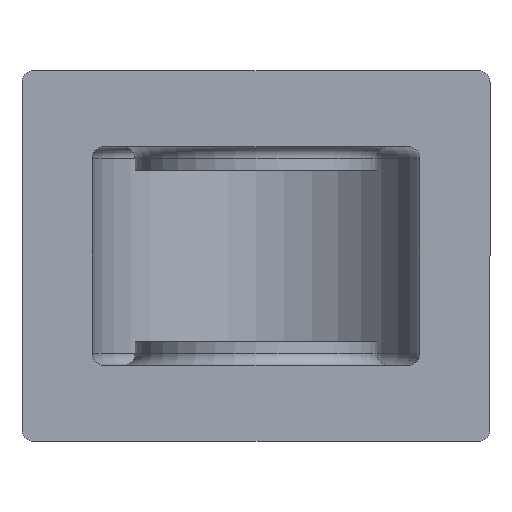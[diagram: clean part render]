
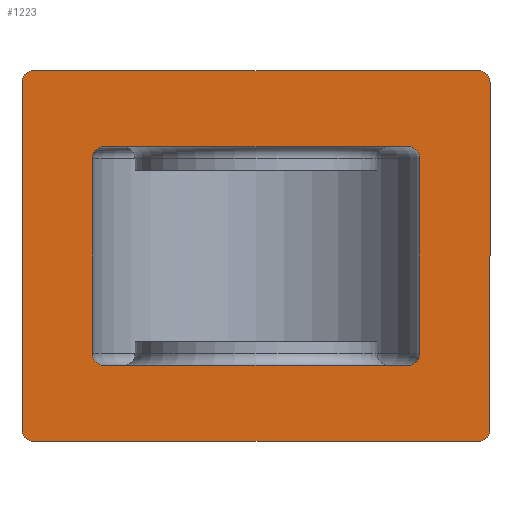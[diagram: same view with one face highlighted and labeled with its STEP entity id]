
A CAD part, front view. The second image highlights one B-rep face of the part: STEP entity #1223.
In plain terms, the highlighted planar face has unit normal (0, -1, 0).
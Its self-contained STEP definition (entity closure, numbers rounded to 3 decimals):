
#101=CARTESIAN_POINT('',(39.,0.,-28.));
#102=VERTEX_POINT('',#101);
#120=CARTESIAN_POINT('',(-39.,0.,-28.));
#121=VERTEX_POINT('',#120);
#128=CARTESIAN_POINT('',(39.,0.,-28.));
#129=DIRECTION('',(-1.0,0.0,0.0));
#130=VECTOR('',#129,78.);
#131=LINE('',#128,#130);
#132=EDGE_CURVE('',#102,#121,#131,.T.);
#193=CARTESIAN_POINT('',(-39.,0.,28.));
#194=VERTEX_POINT('',#193);
#212=CARTESIAN_POINT('',(39.,0.,28.));
#213=VERTEX_POINT('',#212);
#220=CARTESIAN_POINT('',(-39.,0.,28.));
#221=DIRECTION('',(1.0,0.0,0.0));
#222=VECTOR('',#221,78.);
#223=LINE('',#220,#222);
#224=EDGE_CURVE('',#194,#213,#223,.T.);
#1012=CARTESIAN_POINT('',(-57.,0.0,-47.5));
#1013=VERTEX_POINT('',#1012);
#1020=CARTESIAN_POINT('',(-60.,0.0,-44.5));
#1021=VERTEX_POINT('',#1020);
#1022=CARTESIAN_POINT('',(-57.,0.,-44.5));
#1023=DIRECTION('',(0.0,1.0,0.0));
#1024=DIRECTION('',(-0.707,0.0,-0.707));
#1025=AXIS2_PLACEMENT_3D('',#1022,#1023,#1024);
#1026=CIRCLE('',#1025,3.);
#1027=EDGE_CURVE('',#1013,#1021,#1026,.T.);
#1044=CARTESIAN_POINT('',(57.,0.0,-47.5));
#1045=VERTEX_POINT('',#1044);
#1052=CARTESIAN_POINT('',(-57.,0.0,-47.5));
#1053=DIRECTION('',(1.0,0.0,0.0));
#1054=VECTOR('',#1053,114.0);
#1055=LINE('',#1052,#1054);
#1056=EDGE_CURVE('',#1013,#1045,#1055,.T.);
#1068=CARTESIAN_POINT('',(60.,0.0,-44.5));
#1069=VERTEX_POINT('',#1068);
#1076=CARTESIAN_POINT('',(57.,0.,-44.5));
#1077=DIRECTION('',(0.0,1.0,0.0));
#1078=DIRECTION('',(0.707,0.0,-0.707));
#1079=AXIS2_PLACEMENT_3D('',#1076,#1077,#1078);
#1080=CIRCLE('',#1079,3.);
#1081=EDGE_CURVE('',#1069,#1045,#1080,.T.);
#1093=CARTESIAN_POINT('',(60.,0.0,44.5));
#1094=VERTEX_POINT('',#1093);
#1101=CARTESIAN_POINT('',(60.,0.0,-44.5));
#1102=DIRECTION('',(0.0,0.0,1.0));
#1103=VECTOR('',#1102,89.0);
#1104=LINE('',#1101,#1103);
#1105=EDGE_CURVE('',#1069,#1094,#1104,.T.);
#1117=CARTESIAN_POINT('',(57.,0.0,47.5));
#1118=VERTEX_POINT('',#1117);
#1125=CARTESIAN_POINT('',(57.,0.,44.5));
#1126=DIRECTION('',(0.0,1.0,0.0));
#1127=DIRECTION('',(0.707,0.0,0.707));
#1128=AXIS2_PLACEMENT_3D('',#1125,#1126,#1127);
#1129=CIRCLE('',#1128,3.);
#1130=EDGE_CURVE('',#1118,#1094,#1129,.T.);
#1136=CARTESIAN_POINT('',(-51.,0.,0.0));
#1137=DIRECTION('',(0.0,-1.0,0.0));
#1138=DIRECTION('',(1.0,0.0,0.0));
#1139=AXIS2_PLACEMENT_3D('',#1136,#1137,#1138);
#1140=PLANE('',#1139);
#1141=ORIENTED_EDGE('',*,*,#1130,.F.);
#1142=CARTESIAN_POINT('',(-57.,0.0,47.5));
#1143=VERTEX_POINT('',#1142);
#1144=CARTESIAN_POINT('',(57.,0.0,47.5));
#1145=DIRECTION('',(-1.0,0.0,0.0));
#1146=VECTOR('',#1145,114.);
#1147=LINE('',#1144,#1146);
#1148=EDGE_CURVE('',#1118,#1143,#1147,.T.);
#1149=ORIENTED_EDGE('',*,*,#1148,.T.);
#1150=CARTESIAN_POINT('',(-60.,0.0,44.5));
#1151=VERTEX_POINT('',#1150);
#1152=CARTESIAN_POINT('',(-57.,0.,44.5));
#1153=DIRECTION('',(0.0,1.0,0.0));
#1154=DIRECTION('',(-0.707,0.0,0.707));
#1155=AXIS2_PLACEMENT_3D('',#1152,#1153,#1154);
#1156=CIRCLE('',#1155,3.);
#1157=EDGE_CURVE('',#1151,#1143,#1156,.T.);
#1158=ORIENTED_EDGE('',*,*,#1157,.F.);
#1159=CARTESIAN_POINT('',(-60.,0.0,44.5));
#1160=DIRECTION('',(0.0,0.0,-1.0));
#1161=VECTOR('',#1160,89.0);
#1162=LINE('',#1159,#1161);
#1163=EDGE_CURVE('',#1151,#1021,#1162,.T.);
#1164=ORIENTED_EDGE('',*,*,#1163,.T.);
#1165=ORIENTED_EDGE('',*,*,#1027,.F.);
#1166=ORIENTED_EDGE('',*,*,#1056,.T.);
#1167=ORIENTED_EDGE('',*,*,#1081,.F.);
#1168=ORIENTED_EDGE('',*,*,#1105,.T.);
#1169=EDGE_LOOP('',(#1141,#1149,#1158,#1164,#1165,#1166,#1167,#1168));
#1170=FACE_OUTER_BOUND('',#1169,.T.);
#1171=CARTESIAN_POINT('',(-42.,0.,25.0));
#1172=VERTEX_POINT('',#1171);
#1173=CARTESIAN_POINT('',(-39.,0.,25.0));
#1174=DIRECTION('',(0.0,1.0,0.0));
#1175=DIRECTION('',(-0.707,0.0,0.707));
#1176=AXIS2_PLACEMENT_3D('',#1173,#1174,#1175);
#1177=CIRCLE('',#1176,3.);
#1178=EDGE_CURVE('',#1172,#194,#1177,.T.);
#1179=ORIENTED_EDGE('',*,*,#1178,.T.);
#1180=ORIENTED_EDGE('',*,*,#224,.T.);
#1181=CARTESIAN_POINT('',(42.,0.,25.0));
#1182=VERTEX_POINT('',#1181);
#1183=CARTESIAN_POINT('',(39.,0.,25.0));
#1184=DIRECTION('',(0.,1.0,0.));
#1185=DIRECTION('',(0.707,0.,0.707));
#1186=AXIS2_PLACEMENT_3D('',#1183,#1184,#1185);
#1187=CIRCLE('',#1186,3.);
#1188=EDGE_CURVE('',#213,#1182,#1187,.T.);
#1189=ORIENTED_EDGE('',*,*,#1188,.T.);
#1190=CARTESIAN_POINT('',(42.,0.,-25.0));
#1191=VERTEX_POINT('',#1190);
#1192=CARTESIAN_POINT('',(42.,0.,25.0));
#1193=DIRECTION('',(0.0,0.0,-1.0));
#1194=VECTOR('',#1193,50.0);
#1195=LINE('',#1192,#1194);
#1196=EDGE_CURVE('',#1182,#1191,#1195,.T.);
#1197=ORIENTED_EDGE('',*,*,#1196,.T.);
#1198=CARTESIAN_POINT('',(39.,0.,-25.0));
#1199=DIRECTION('',(0.,1.0,0.));
#1200=DIRECTION('',(0.707,0.,-0.707));
#1201=AXIS2_PLACEMENT_3D('',#1198,#1199,#1200);
#1202=CIRCLE('',#1201,3.);
#1203=EDGE_CURVE('',#1191,#102,#1202,.T.);
#1204=ORIENTED_EDGE('',*,*,#1203,.T.);
#1205=ORIENTED_EDGE('',*,*,#132,.T.);
#1206=CARTESIAN_POINT('',(-42.,0.,-25.0));
#1207=VERTEX_POINT('',#1206);
#1208=CARTESIAN_POINT('',(-39.,0.,-25.0));
#1209=DIRECTION('',(0.0,1.0,0.0));
#1210=DIRECTION('',(-0.707,0.0,-0.707));
#1211=AXIS2_PLACEMENT_3D('',#1208,#1209,#1210);
#1212=CIRCLE('',#1211,3.);
#1213=EDGE_CURVE('',#121,#1207,#1212,.T.);
#1214=ORIENTED_EDGE('',*,*,#1213,.T.);
#1215=CARTESIAN_POINT('',(-42.,0.,-25.0));
#1216=DIRECTION('',(0.0,0.0,1.0));
#1217=VECTOR('',#1216,50.0);
#1218=LINE('',#1215,#1217);
#1219=EDGE_CURVE('',#1207,#1172,#1218,.T.);
#1220=ORIENTED_EDGE('',*,*,#1219,.T.);
#1221=EDGE_LOOP('',(#1179,#1180,#1189,#1197,#1204,#1205,#1214,#1220));
#1222=FACE_BOUND('',#1221,.T.);
#1223=ADVANCED_FACE('',(#1170,#1222),#1140,.T.);
